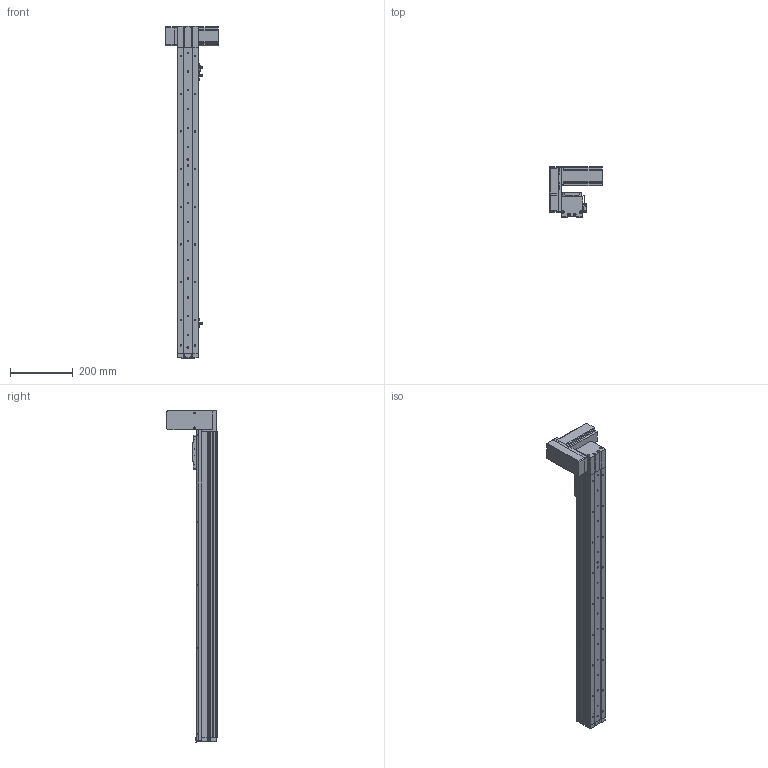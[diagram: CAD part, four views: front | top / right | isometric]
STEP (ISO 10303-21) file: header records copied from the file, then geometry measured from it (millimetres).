
FILE_DESCRIPTION (( 'STEP AP214' ), '1' );
FILE_NAME ('KSD68BS-S800-MRU-CR.STEP', '2019-08-28T06:24:47', ( '微软用户' ), ( '微软中国' ), 'SwSTEP 2.0', 'SolidWorks 2014', '' );
FILE_SCHEMA (( 'AUTOMOTIVE_DESIGN' ));
Length unit declared in the file: millimetre
Products named in the file (14): U倰嫖萇EEㄜSX672; 台达ECMA－C20604AS伺服电机（400W); KSD68BS 800行程底板全封闭; KSD68BS 800行程盖板全封闭; KSD68BS-S800-MRU-CR; 68遵裔啣揤啣1; 68宽单导轨全封闭丝杆传动安装板1防护罩; KSD68BS 800行程侧板全封闭; 68宽单导轨全封闭同步带端板; 68单导轨全封闭同步带电机座右; 68单导轨全封闭同步带安装板; 悵誘欶奻狟殏; 68宽马达安装板连板上折同步带; 感应片68宽全封闭
Assembly tree (16 placements, depth 2):
  KSD68BS-S800-MRU-CR
    KSD68BS 800行程底板全封闭
    台达ECMA－C20604AS伺服电机（400W)
    U倰嫖萇EEㄜSX672  x3
    感应片68宽全封闭
    68宽马达安装板连板上折同步带
    悵誘欶奻狟殏
    68单导轨全封闭同步带安装板
    68单导轨全封闭同步带电机座右
    68宽单导轨全封闭同步带端板
    KSD68BS 800行程侧板全封闭  x2
    68宽单导轨全封闭丝杆传动安装板1防护罩
    KSD68BS 800行程盖板全封闭
    68遵裔啣揤啣1
Bounding box: 167.2 x 159.5 x 1058.1 mm (x, y, z)
Volume: 2265872.7 mm3; surface area: 843206.7 mm2
Topology: 17 solids, 17 shells, 1455 faces, 4142 edges, 2653 vertices
Faces by surface type: cylinder 683, plane 620, cone 152
Entity records: 46478 total; most frequent: CARTESIAN_POINT 7900, DIRECTION 6989, ORIENTED_EDGE 6690, EDGE_CURVE 3345, AXIS2_PLACEMENT_3D 2512, VERTEX_POINT 2195, LINE 1965, VECTOR 1965
